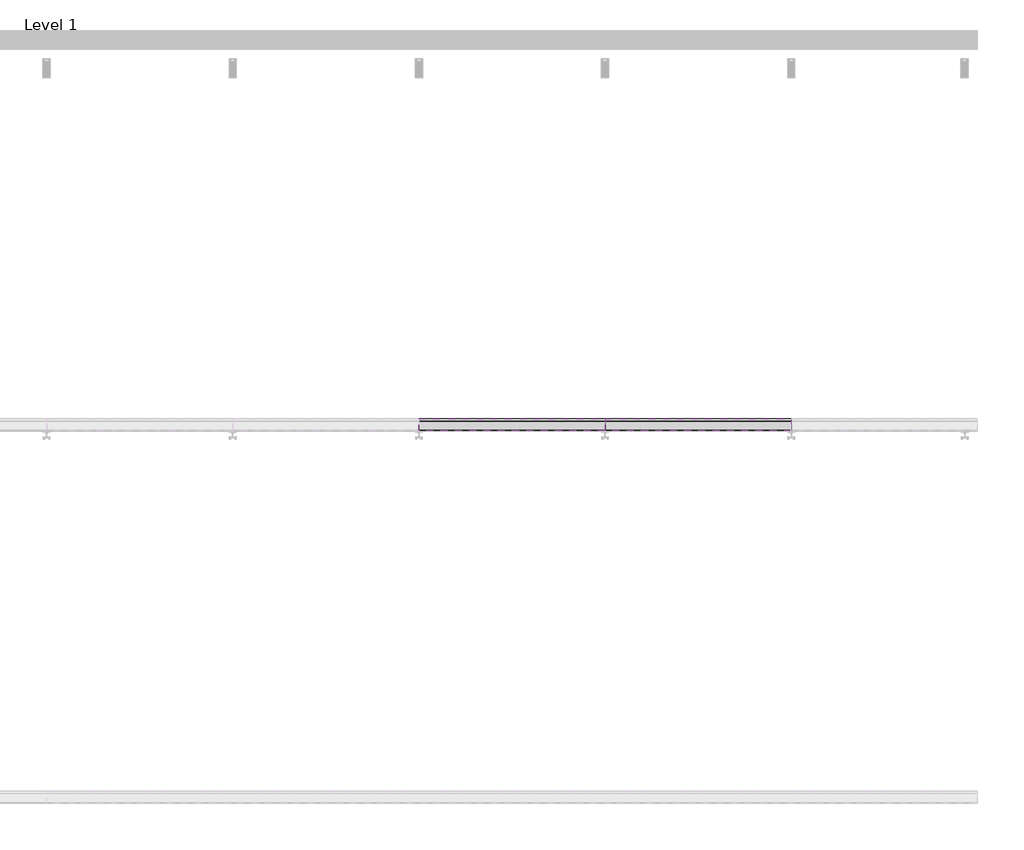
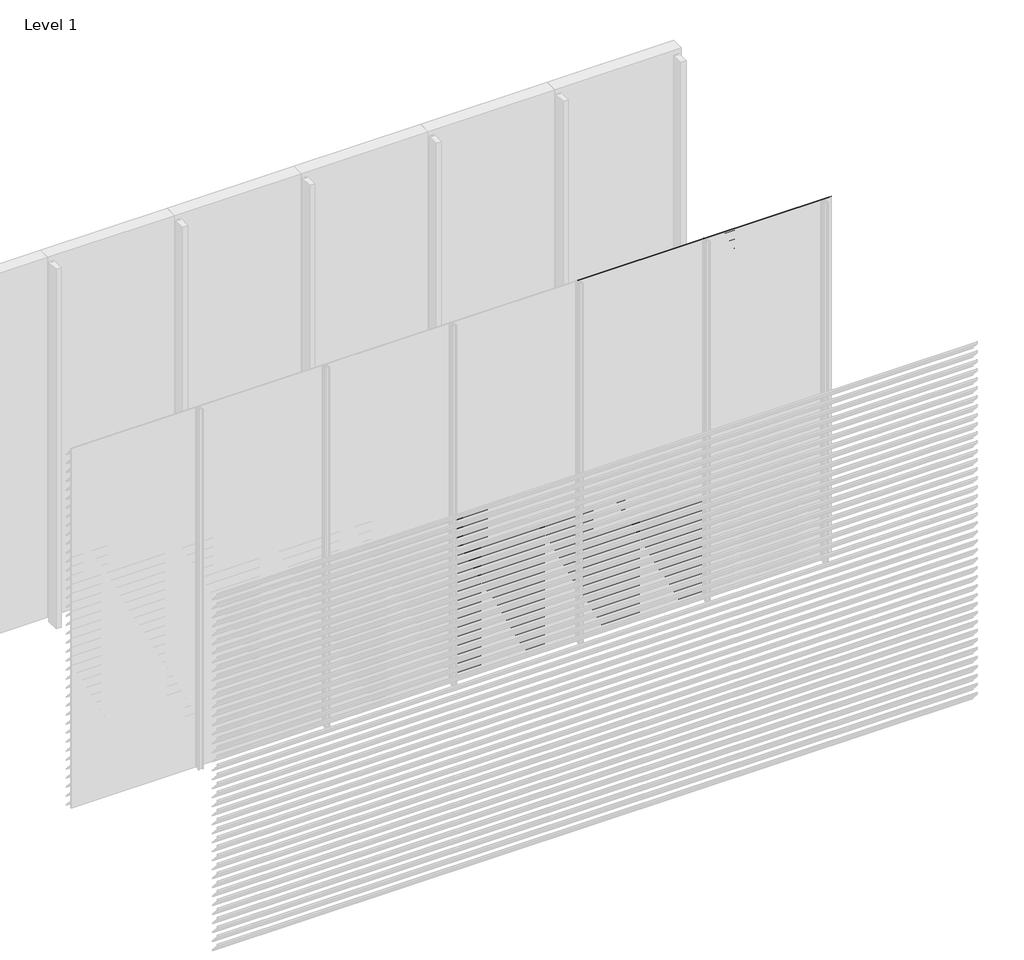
# One storey, part 12 of 35: 86 proxies.
"""IFC4 building model written with IfcOpenShell, lengths in millimetres."""

from ifc_helpers import new_model, si_unit, frame, origin, place, context, project, spatial, polyline, outline, extrude, element, save

model = new_model("IFC4")

# Units and contexts
model_context = context("Model", 3, world=origin())
ifc_project = project(units=[si_unit("LENGTHUNIT", "METRE", prefix="MILLI")], contexts=[model_context])

# Site, building, storey
site = spatial("IfcSite", under=ifc_project)
building = spatial("IfcBuilding", under=site)
storey = spatial("IfcBuildingStorey", under=building, Name="Level 1", Elevation=0.0)

# Proxies
placement = place(None, origin())
element("IfcBuildingElementProxy", 1, Name="Wall Sweeps", at=placement, inside=storey, context=model_context, shape_type="SweptSolid", body=[
    extrude(outline(polyline([(-41996.5, 2775.0), (-41996.5, 2760.5463701), (-41934.5, 2688.9330051), (-41934.5, 2685.4), (-41936.0, 2685.4), (-41936.0, 2688.3738975), (-41998.0, 2759.9872626), (-41998.0, 2775.0), (-41996.5, 2775.0)])), frame((3000.0, 0.0, 0.0), z_axis=(1.0, 0.0, 0.0), x_axis=(0.0, 1.0, 0.0)), (0.0, 0.0, 1.0), 1000.0),
])
element("IfcBuildingElementProxy", 2, Name="Wall Sweeps", at=placement, inside=storey, context=model_context, shape_type="SweptSolid", body=[
    extrude(outline(polyline([(-41996.5, 2700.0), (-41996.5, 2685.5463701), (-41934.5, 2613.9330051), (-41934.5, 2610.4), (-41936.0, 2610.4), (-41936.0, 2613.3738975), (-41998.0, 2684.9872626), (-41998.0, 2700.0), (-41996.5, 2700.0)])), frame((3000.0, 0.0, 0.0), z_axis=(1.0, 0.0, 0.0), x_axis=(0.0, 1.0, 0.0)), (0.0, 0.0, 1.0), 1000.0),
])
element("IfcBuildingElementProxy", 3, Name="Wall Sweeps", at=placement, inside=storey, context=model_context, shape_type="SweptSolid", body=[
    extrude(outline(polyline([(-41996.5, 2625.0), (-41996.5, 2610.5463701), (-41934.5, 2538.9330051), (-41934.5, 2535.4), (-41936.0, 2535.4), (-41936.0, 2538.3738975), (-41998.0, 2609.9872626), (-41998.0, 2625.0), (-41996.5, 2625.0)])), frame((3000.0, 0.0, 0.0), z_axis=(1.0, 0.0, 0.0), x_axis=(0.0, 1.0, 0.0)), (0.0, 0.0, 1.0), 1000.0),
])
element("IfcBuildingElementProxy", 4, Name="Wall Sweeps", at=placement, inside=storey, context=model_context, shape_type="SweptSolid", body=[
    extrude(outline(polyline([(-41996.5, 2550.0), (-41996.5, 2535.5463701), (-41934.5, 2463.9330051), (-41934.5, 2460.4), (-41936.0, 2460.4), (-41936.0, 2463.3738975), (-41998.0, 2534.9872626), (-41998.0, 2550.0), (-41996.5, 2550.0)])), frame((3000.0, 0.0, 0.0), z_axis=(1.0, 0.0, 0.0), x_axis=(0.0, 1.0, 0.0)), (0.0, 0.0, 1.0), 1000.0),
])
element("IfcBuildingElementProxy", 5, Name="Wall Sweeps", at=placement, inside=storey, context=model_context, shape_type="SweptSolid", body=[
    extrude(outline(polyline([(-41996.5, 2475.0), (-41996.5, 2460.5463701), (-41934.5, 2388.9330051), (-41934.5, 2385.4), (-41936.0, 2385.4), (-41936.0, 2388.3738975), (-41998.0, 2459.9872626), (-41998.0, 2475.0), (-41996.5, 2475.0)])), frame((3000.0, 0.0, 0.0), z_axis=(1.0, 0.0, 0.0), x_axis=(0.0, 1.0, 0.0)), (0.0, 0.0, 1.0), 1000.0),
])
element("IfcBuildingElementProxy", 6, Name="Wall Sweeps", at=placement, inside=storey, context=model_context, shape_type="SweptSolid", body=[
    extrude(outline(polyline([(-41996.5, 2400.0), (-41996.5, 2385.5463701), (-41934.5, 2313.9330051), (-41934.5, 2310.4), (-41936.0, 2310.4), (-41936.0, 2313.3738975), (-41998.0, 2384.9872626), (-41998.0, 2400.0), (-41996.5, 2400.0)])), frame((3000.0, 0.0, 0.0), z_axis=(1.0, 0.0, 0.0), x_axis=(0.0, 1.0, 0.0)), (0.0, 0.0, 1.0), 1000.0),
])
element("IfcBuildingElementProxy", 7, Name="Wall Sweeps", at=placement, inside=storey, context=model_context, shape_type="SweptSolid", body=[
    extrude(outline(polyline([(-41996.5, 2325.0), (-41996.5, 2310.5463701), (-41934.5, 2238.9330051), (-41934.5, 2235.4), (-41936.0, 2235.4), (-41936.0, 2238.3738975), (-41998.0, 2309.9872626), (-41998.0, 2325.0), (-41996.5, 2325.0)])), frame((3000.0, 0.0, 0.0), z_axis=(1.0, 0.0, 0.0), x_axis=(0.0, 1.0, 0.0)), (0.0, 0.0, 1.0), 1000.0),
])
element("IfcBuildingElementProxy", 8, Name="Wall Sweeps", at=placement, inside=storey, context=model_context, shape_type="SweptSolid", body=[
    extrude(outline(polyline([(-41996.5, 2250.0), (-41996.5, 2235.5463701), (-41934.5, 2163.9330051), (-41934.5, 2160.4), (-41936.0, 2160.4), (-41936.0, 2163.3738975), (-41998.0, 2234.9872626), (-41998.0, 2250.0), (-41996.5, 2250.0)])), frame((3000.0, 0.0, 0.0), z_axis=(1.0, 0.0, 0.0), x_axis=(0.0, 1.0, 0.0)), (0.0, 0.0, 1.0), 1000.0),
])
element("IfcBuildingElementProxy", 9, Name="Wall Sweeps", at=placement, inside=storey, context=model_context, shape_type="SweptSolid", body=[
    extrude(outline(polyline([(-41996.5, 2175.0), (-41996.5, 2160.5463701), (-41934.5, 2088.9330051), (-41934.5, 2085.4), (-41936.0, 2085.4), (-41936.0, 2088.3738975), (-41998.0, 2159.9872626), (-41998.0, 2175.0), (-41996.5, 2175.0)])), frame((3000.0, 0.0, 0.0), z_axis=(1.0, 0.0, 0.0), x_axis=(0.0, 1.0, 0.0)), (0.0, 0.0, 1.0), 1000.0),
])
element("IfcBuildingElementProxy", 10, Name="Wall Sweeps", at=placement, inside=storey, context=model_context, shape_type="SweptSolid", body=[
    extrude(outline(polyline([(-41996.5, 2100.0), (-41996.5, 2085.5463701), (-41934.5, 2013.9330051), (-41934.5, 2010.4), (-41936.0, 2010.4), (-41936.0, 2013.3738975), (-41998.0, 2084.9872626), (-41998.0, 2100.0), (-41996.5, 2100.0)])), frame((3000.0, 0.0, 0.0), z_axis=(1.0, 0.0, 0.0), x_axis=(0.0, 1.0, 0.0)), (0.0, 0.0, 1.0), 1000.0),
])
element("IfcBuildingElementProxy", 11, Name="Wall Sweeps", at=placement, inside=storey, context=model_context, shape_type="SweptSolid", body=[
    extrude(outline(polyline([(-41996.5, 2025.0), (-41996.5, 2010.5463701), (-41934.5, 1938.9330051), (-41934.5, 1935.4), (-41936.0, 1935.4), (-41936.0, 1938.3738975), (-41998.0, 2009.9872626), (-41998.0, 2025.0), (-41996.5, 2025.0)])), frame((3000.0, 0.0, 0.0), z_axis=(1.0, 0.0, 0.0), x_axis=(0.0, 1.0, 0.0)), (0.0, 0.0, 1.0), 1000.0),
])
element("IfcBuildingElementProxy", 12, Name="Wall Sweeps", at=placement, inside=storey, context=model_context, shape_type="SweptSolid", body=[
    extrude(outline(polyline([(-41996.5, 1950.0), (-41996.5, 1935.5463701), (-41934.5, 1863.9330051), (-41934.5, 1860.4), (-41936.0, 1860.4), (-41936.0, 1863.3738975), (-41998.0, 1934.9872626), (-41998.0, 1950.0), (-41996.5, 1950.0)])), frame((3000.0, 0.0, 0.0), z_axis=(1.0, 0.0, 0.0), x_axis=(0.0, 1.0, 0.0)), (0.0, 0.0, 1.0), 1000.0),
])
element("IfcBuildingElementProxy", 13, Name="Wall Sweeps", at=placement, inside=storey, context=model_context, shape_type="SweptSolid", body=[
    extrude(outline(polyline([(-41996.5, 1875.0), (-41996.5, 1860.5463701), (-41934.5, 1788.9330051), (-41934.5, 1785.4), (-41936.0, 1785.4), (-41936.0, 1788.3738975), (-41998.0, 1859.9872626), (-41998.0, 1875.0), (-41996.5, 1875.0)])), frame((3000.0, 0.0, 0.0), z_axis=(1.0, 0.0, 0.0), x_axis=(0.0, 1.0, 0.0)), (0.0, 0.0, 1.0), 1000.0),
])
element("IfcBuildingElementProxy", 14, Name="Wall Sweeps", at=placement, inside=storey, context=model_context, shape_type="SweptSolid", body=[
    extrude(outline(polyline([(-41996.5, 1800.0), (-41996.5, 1785.5463701), (-41934.5, 1713.9330051), (-41934.5, 1710.4), (-41936.0, 1710.4), (-41936.0, 1713.3738975), (-41998.0, 1784.9872626), (-41998.0, 1800.0), (-41996.5, 1800.0)])), frame((3000.0, 0.0, 0.0), z_axis=(1.0, 0.0, 0.0), x_axis=(0.0, 1.0, 0.0)), (0.0, 0.0, 1.0), 1000.0),
])
element("IfcBuildingElementProxy", 15, Name="Wall Sweeps", at=placement, inside=storey, context=model_context, shape_type="SweptSolid", body=[
    extrude(outline(polyline([(-41996.5, 1725.0), (-41996.5, 1710.5463701), (-41934.5, 1638.9330051), (-41934.5, 1635.4), (-41936.0, 1635.4), (-41936.0, 1638.3738975), (-41998.0, 1709.9872626), (-41998.0, 1725.0), (-41996.5, 1725.0)])), frame((3000.0, 0.0, 0.0), z_axis=(1.0, 0.0, 0.0), x_axis=(0.0, 1.0, 0.0)), (0.0, 0.0, 1.0), 1000.0),
])
element("IfcBuildingElementProxy", 16, Name="Wall Sweeps", at=placement, inside=storey, context=model_context, shape_type="SweptSolid", body=[
    extrude(outline(polyline([(-41996.5, 1650.0), (-41996.5, 1635.5463701), (-41934.5, 1563.9330051), (-41934.5, 1560.4), (-41936.0, 1560.4), (-41936.0, 1563.3738975), (-41998.0, 1634.9872626), (-41998.0, 1650.0), (-41996.5, 1650.0)])), frame((3000.0, 0.0, 0.0), z_axis=(1.0, 0.0, 0.0), x_axis=(0.0, 1.0, 0.0)), (0.0, 0.0, 1.0), 1000.0),
])
element("IfcBuildingElementProxy", 17, Name="Wall Sweeps", at=placement, inside=storey, context=model_context, shape_type="SweptSolid", body=[
    extrude(outline(polyline([(-41996.5, 1575.0), (-41996.5, 1560.5463701), (-41934.5, 1488.9330051), (-41934.5, 1485.4), (-41936.0, 1485.4), (-41936.0, 1488.3738975), (-41998.0, 1559.9872626), (-41998.0, 1575.0), (-41996.5, 1575.0)])), frame((3000.0, 0.0, 0.0), z_axis=(1.0, 0.0, 0.0), x_axis=(0.0, 1.0, 0.0)), (0.0, 0.0, 1.0), 1000.0),
])
element("IfcBuildingElementProxy", 18, Name="Wall Sweeps", at=placement, inside=storey, context=model_context, shape_type="SweptSolid", body=[
    extrude(outline(polyline([(-41996.5, 1500.0), (-41996.5, 1485.5463701), (-41934.5, 1413.9330051), (-41934.5, 1410.4), (-41936.0, 1410.4), (-41936.0, 1413.3738975), (-41998.0, 1484.9872626), (-41998.0, 1500.0), (-41996.5, 1500.0)])), frame((3000.0, 0.0, 0.0), z_axis=(1.0, 0.0, 0.0), x_axis=(0.0, 1.0, 0.0)), (0.0, 0.0, 1.0), 1000.0),
])
element("IfcBuildingElementProxy", 19, Name="Wall Sweeps", at=placement, inside=storey, context=model_context, shape_type="SweptSolid", body=[
    extrude(outline(polyline([(-41996.5, 1425.0), (-41996.5, 1410.5463701), (-41934.5, 1338.9330051), (-41934.5, 1335.4), (-41936.0, 1335.4), (-41936.0, 1338.3738975), (-41998.0, 1409.9872626), (-41998.0, 1425.0), (-41996.5, 1425.0)])), frame((3000.0, 0.0, 0.0), z_axis=(1.0, 0.0, 0.0), x_axis=(0.0, 1.0, 0.0)), (0.0, 0.0, 1.0), 1000.0),
])
element("IfcBuildingElementProxy", 20, Name="Wall Sweeps", at=placement, inside=storey, context=model_context, shape_type="SweptSolid", body=[
    extrude(outline(polyline([(-41996.5, 1350.0), (-41996.5, 1335.5463701), (-41934.5, 1263.9330051), (-41934.5, 1260.4), (-41936.0, 1260.4), (-41936.0, 1263.3738975), (-41998.0, 1334.9872626), (-41998.0, 1350.0), (-41996.5, 1350.0)])), frame((3000.0, 0.0, 0.0), z_axis=(1.0, 0.0, 0.0), x_axis=(0.0, 1.0, 0.0)), (0.0, 0.0, 1.0), 1000.0),
])
element("IfcBuildingElementProxy", 21, Name="Wall Sweeps", at=placement, inside=storey, context=model_context, shape_type="SweptSolid", body=[
    extrude(outline(polyline([(-41996.5, 1275.0), (-41996.5, 1260.5463701), (-41934.5, 1188.9330051), (-41934.5, 1185.4), (-41936.0, 1185.4), (-41936.0, 1188.3738975), (-41998.0, 1259.9872626), (-41998.0, 1275.0), (-41996.5, 1275.0)])), frame((3000.0, 0.0, 0.0), z_axis=(1.0, 0.0, 0.0), x_axis=(0.0, 1.0, 0.0)), (0.0, 0.0, 1.0), 1000.0),
])
element("IfcBuildingElementProxy", 22, Name="Wall Sweeps", at=placement, inside=storey, context=model_context, shape_type="SweptSolid", body=[
    extrude(outline(polyline([(-41996.5, 1200.0), (-41996.5, 1185.5463701), (-41934.5, 1113.9330051), (-41934.5, 1110.4), (-41936.0, 1110.4), (-41936.0, 1113.3738975), (-41998.0, 1184.9872626), (-41998.0, 1200.0), (-41996.5, 1200.0)])), frame((3000.0, 0.0, 0.0), z_axis=(1.0, 0.0, 0.0), x_axis=(0.0, 1.0, 0.0)), (0.0, 0.0, 1.0), 1000.0),
])
element("IfcBuildingElementProxy", 23, Name="Wall Sweeps", at=placement, inside=storey, context=model_context, shape_type="SweptSolid", body=[
    extrude(outline(polyline([(-41996.5, 1125.0), (-41996.5, 1110.5463701), (-41934.5, 1038.9330051), (-41934.5, 1035.4), (-41936.0, 1035.4), (-41936.0, 1038.3738975), (-41998.0, 1109.9872626), (-41998.0, 1125.0), (-41996.5, 1125.0)])), frame((3000.0, 0.0, 0.0), z_axis=(1.0, 0.0, 0.0), x_axis=(0.0, 1.0, 0.0)), (0.0, 0.0, 1.0), 1000.0),
])
element("IfcBuildingElementProxy", 24, Name="Wall Sweeps", at=placement, inside=storey, context=model_context, shape_type="SweptSolid", body=[
    extrude(outline(polyline([(-41996.5, 1050.0), (-41996.5, 1035.5463701), (-41934.5, 963.9330051), (-41934.5, 960.4), (-41936.0, 960.4), (-41936.0, 963.3738975), (-41998.0, 1034.9872626), (-41998.0, 1050.0), (-41996.5, 1050.0)])), frame((3000.0, 0.0, 0.0), z_axis=(1.0, 0.0, 0.0), x_axis=(0.0, 1.0, 0.0)), (0.0, 0.0, 1.0), 1000.0),
])
element("IfcBuildingElementProxy", 25, Name="Wall Sweeps", at=placement, inside=storey, context=model_context, shape_type="SweptSolid", body=[
    extrude(outline(polyline([(-41996.5, 975.0), (-41996.5, 960.5463701), (-41934.5, 888.9330051), (-41934.5, 885.4), (-41936.0, 885.4), (-41936.0, 888.3738975), (-41998.0, 959.9872626), (-41998.0, 975.0), (-41996.5, 975.0)])), frame((3000.0, 0.0, 0.0), z_axis=(1.0, 0.0, 0.0), x_axis=(0.0, 1.0, 0.0)), (0.0, 0.0, 1.0), 1000.0),
])
element("IfcBuildingElementProxy", 26, Name="Wall Sweeps", at=placement, inside=storey, context=model_context, shape_type="SweptSolid", body=[
    extrude(outline(polyline([(-41996.5, 900.0), (-41996.5, 885.5463701), (-41934.5, 813.9330051), (-41934.5, 810.4), (-41936.0, 810.4), (-41936.0, 813.3738975), (-41998.0, 884.9872626), (-41998.0, 900.0), (-41996.5, 900.0)])), frame((3000.0, 0.0, 0.0), z_axis=(1.0, 0.0, 0.0), x_axis=(0.0, 1.0, 0.0)), (0.0, 0.0, 1.0), 1000.0),
])
element("IfcBuildingElementProxy", 27, Name="Wall Sweeps", at=placement, inside=storey, context=model_context, shape_type="SweptSolid", body=[
    extrude(outline(polyline([(-41996.5, 825.0), (-41996.5, 810.5463701), (-41934.5, 738.9330051), (-41934.5, 735.4), (-41936.0, 735.4), (-41936.0, 738.3738975), (-41998.0, 809.9872626), (-41998.0, 825.0), (-41996.5, 825.0)])), frame((3000.0, 0.0, 0.0), z_axis=(1.0, 0.0, 0.0), x_axis=(0.0, 1.0, 0.0)), (0.0, 0.0, 1.0), 1000.0),
])
element("IfcBuildingElementProxy", 28, Name="Wall Sweeps", at=placement, inside=storey, context=model_context, shape_type="SweptSolid", body=[
    extrude(outline(polyline([(-41996.5, 750.0), (-41996.5, 735.5463701), (-41934.5, 663.9330051), (-41934.5, 660.4), (-41936.0, 660.4), (-41936.0, 663.3738975), (-41998.0, 734.9872626), (-41998.0, 750.0), (-41996.5, 750.0)])), frame((3000.0, 0.0, 0.0), z_axis=(1.0, 0.0, 0.0), x_axis=(0.0, 1.0, 0.0)), (0.0, 0.0, 1.0), 1000.0),
])
element("IfcBuildingElementProxy", 29, Name="Wall Sweeps", at=placement, inside=storey, context=model_context, shape_type="SweptSolid", body=[
    extrude(outline(polyline([(-41996.5, 675.0), (-41996.5, 660.5463701), (-41934.5, 588.9330051), (-41934.5, 585.4), (-41936.0, 585.4), (-41936.0, 588.3738975), (-41998.0, 659.9872626), (-41998.0, 675.0), (-41996.5, 675.0)])), frame((3000.0, 0.0, 0.0), z_axis=(1.0, 0.0, 0.0), x_axis=(0.0, 1.0, 0.0)), (0.0, 0.0, 1.0), 1000.0),
])
element("IfcBuildingElementProxy", 30, Name="Wall Sweeps", at=placement, inside=storey, context=model_context, shape_type="SweptSolid", body=[
    extrude(outline(polyline([(-41996.5, 600.0), (-41996.5, 585.5463701), (-41934.5, 513.9330051), (-41934.5, 510.4), (-41936.0, 510.4), (-41936.0, 513.3738975), (-41998.0, 584.9872626), (-41998.0, 600.0), (-41996.5, 600.0)])), frame((3000.0, 0.0, 0.0), z_axis=(1.0, 0.0, 0.0), x_axis=(0.0, 1.0, 0.0)), (0.0, 0.0, 1.0), 1000.0),
])
element("IfcBuildingElementProxy", 31, Name="Wall Sweeps", at=placement, inside=storey, context=model_context, shape_type="SweptSolid", body=[
    extrude(outline(polyline([(-41996.5, 525.0), (-41996.5, 510.5463701), (-41934.5, 438.9330051), (-41934.5, 435.4), (-41936.0, 435.4), (-41936.0, 438.3738975), (-41998.0, 509.9872626), (-41998.0, 525.0), (-41996.5, 525.0)])), frame((3000.0, 0.0, 0.0), z_axis=(1.0, 0.0, 0.0), x_axis=(0.0, 1.0, 0.0)), (0.0, 0.0, 1.0), 1000.0),
])
element("IfcBuildingElementProxy", 32, Name="Wall Sweeps", at=placement, inside=storey, context=model_context, shape_type="SweptSolid", body=[
    extrude(outline(polyline([(-41996.5, 450.0), (-41996.5, 435.5463701), (-41934.5, 363.9330051), (-41934.5, 360.4), (-41936.0, 360.4), (-41936.0, 363.3738975), (-41998.0, 434.9872626), (-41998.0, 450.0), (-41996.5, 450.0)])), frame((3000.0, 0.0, 0.0), z_axis=(1.0, 0.0, 0.0), x_axis=(0.0, 1.0, 0.0)), (0.0, 0.0, 1.0), 1000.0),
])
element("IfcBuildingElementProxy", 33, Name="Wall Sweeps", at=placement, inside=storey, context=model_context, shape_type="SweptSolid", body=[
    extrude(outline(polyline([(-41996.5, 375.0), (-41996.5, 360.5463701), (-41934.5, 288.9330051), (-41934.5, 285.4), (-41936.0, 285.4), (-41936.0, 288.3738975), (-41998.0, 359.9872626), (-41998.0, 375.0), (-41996.5, 375.0)])), frame((3000.0, 0.0, 0.0), z_axis=(1.0, 0.0, 0.0), x_axis=(0.0, 1.0, 0.0)), (0.0, 0.0, 1.0), 1000.0),
])
element("IfcBuildingElementProxy", 34, Name="Wall Sweeps", at=placement, inside=storey, context=model_context, shape_type="SweptSolid", body=[
    extrude(outline(polyline([(-41996.5, 300.0), (-41996.5, 285.5463701), (-41934.5, 213.9330051), (-41934.5, 210.4), (-41936.0, 210.4), (-41936.0, 213.3738975), (-41998.0, 284.9872626), (-41998.0, 300.0), (-41996.5, 300.0)])), frame((3000.0, 0.0, 0.0), z_axis=(1.0, 0.0, 0.0), x_axis=(0.0, 1.0, 0.0)), (0.0, 0.0, 1.0), 1000.0),
])
element("IfcBuildingElementProxy", 35, Name="Wall Sweeps", at=placement, inside=storey, context=model_context, shape_type="SweptSolid", body=[
    extrude(outline(polyline([(-41996.5, 225.0), (-41996.5, 210.5463701), (-41934.5, 138.9330051), (-41934.5, 135.4), (-41936.0, 135.4), (-41936.0, 138.3738975), (-41998.0, 209.9872626), (-41998.0, 225.0), (-41996.5, 225.0)])), frame((3000.0, 0.0, 0.0), z_axis=(1.0, 0.0, 0.0), x_axis=(0.0, 1.0, 0.0)), (0.0, 0.0, 1.0), 1000.0),
])
element("IfcBuildingElementProxy", 36, Name="Wall Sweeps", at=placement, inside=storey, context=model_context, shape_type="SweptSolid", body=[
    extrude(outline(polyline([(-41996.5, 150.0), (-41996.5, 135.5463701), (-41934.5, 63.9330051), (-41934.5, 60.4), (-41936.0, 60.4), (-41936.0, 63.3738975), (-41998.0, 134.9872626), (-41998.0, 150.0), (-41996.5, 150.0)])), frame((3000.0, 0.0, 0.0), z_axis=(1.0, 0.0, 0.0), x_axis=(0.0, 1.0, 0.0)), (0.0, 0.0, 1.0), 1000.0),
])
element("IfcBuildingElementProxy", 37, Name="Wall Sweeps", at=placement, inside=storey, context=model_context, shape_type="SweptSolid", body=[
    extrude(outline(polyline([(-41996.5, 75.0), (-41996.5, 60.5463701), (-41934.5, -11.0669949), (-41934.5, -14.6), (-41936.0, -14.6), (-41936.0, -11.6261025), (-41998.0, 59.9872626), (-41998.0, 75.0), (-41996.5, 75.0)])), frame((3000.0, 0.0, 0.0), z_axis=(1.0, 0.0, 0.0), x_axis=(0.0, 1.0, 0.0)), (0.0, 0.0, 1.0), 1000.0),
])
element("IfcBuildingElementProxy", 38, Name="Wall Sweeps", at=placement, inside=storey, context=model_context, shape_type="SweptSolid", body=[
    extrude(outline(polyline([(-41996.5, 3000.0), (-41996.5, 2985.5463701), (-41934.5, 2913.9330051), (-41934.5, 2910.4), (-41936.0, 2910.4), (-41936.0, 2913.3738975), (-41998.0, 2984.9872626), (-41998.0, 3000.0), (-41996.5, 3000.0)])), frame((4000.0, 0.0, 0.0), z_axis=(1.0, 0.0, 0.0), x_axis=(0.0, 1.0, 0.0)), (0.0, 0.0, 1.0), 1000.0),
])
element("IfcBuildingElementProxy", 39, Name="Wall Sweeps", at=placement, inside=storey, context=model_context, shape_type="SweptSolid", body=[
    extrude(outline(polyline([(-41996.5, 2925.0), (-41996.5, 2910.5463701), (-41934.5, 2838.9330051), (-41934.5, 2835.4), (-41936.0, 2835.4), (-41936.0, 2838.3738975), (-41998.0, 2909.9872626), (-41998.0, 2925.0), (-41996.5, 2925.0)])), frame((4000.0, 0.0, 0.0), z_axis=(1.0, 0.0, 0.0), x_axis=(0.0, 1.0, 0.0)), (0.0, 0.0, 1.0), 1000.0),
])
element("IfcBuildingElementProxy", 40, Name="Wall Sweeps", at=placement, inside=storey, context=model_context, shape_type="SweptSolid", body=[
    extrude(outline(polyline([(-41996.5, 2850.0), (-41996.5, 2835.5463701), (-41934.5, 2763.9330051), (-41934.5, 2760.4), (-41936.0, 2760.4), (-41936.0, 2763.3738975), (-41998.0, 2834.9872626), (-41998.0, 2850.0), (-41996.5, 2850.0)])), frame((4000.0, 0.0, 0.0), z_axis=(1.0, 0.0, 0.0), x_axis=(0.0, 1.0, 0.0)), (0.0, 0.0, 1.0), 1000.0),
])
element("IfcBuildingElementProxy", 41, Name="Wall Sweeps", at=placement, inside=storey, context=model_context, shape_type="SweptSolid", body=[
    extrude(outline(polyline([(-41996.5, 2775.0), (-41996.5, 2760.5463701), (-41934.5, 2688.9330051), (-41934.5, 2685.4), (-41936.0, 2685.4), (-41936.0, 2688.3738975), (-41998.0, 2759.9872626), (-41998.0, 2775.0), (-41996.5, 2775.0)])), frame((4000.0, 0.0, 0.0), z_axis=(1.0, 0.0, 0.0), x_axis=(0.0, 1.0, 0.0)), (0.0, 0.0, 1.0), 1000.0),
])
element("IfcBuildingElementProxy", 42, Name="Wall Sweeps", at=placement, inside=storey, context=model_context, shape_type="SweptSolid", body=[
    extrude(outline(polyline([(-41996.5, 2700.0), (-41996.5, 2685.5463701), (-41934.5, 2613.9330051), (-41934.5, 2610.4), (-41936.0, 2610.4), (-41936.0, 2613.3738975), (-41998.0, 2684.9872626), (-41998.0, 2700.0), (-41996.5, 2700.0)])), frame((4000.0, 0.0, 0.0), z_axis=(1.0, 0.0, 0.0), x_axis=(0.0, 1.0, 0.0)), (0.0, 0.0, 1.0), 1000.0),
])
element("IfcBuildingElementProxy", 43, Name="Wall Sweeps", at=placement, inside=storey, context=model_context, shape_type="SweptSolid", body=[
    extrude(outline(polyline([(-41996.5, 2625.0), (-41996.5, 2610.5463701), (-41934.5, 2538.9330051), (-41934.5, 2535.4), (-41936.0, 2535.4), (-41936.0, 2538.3738975), (-41998.0, 2609.9872626), (-41998.0, 2625.0), (-41996.5, 2625.0)])), frame((4000.0, 0.0, 0.0), z_axis=(1.0, 0.0, 0.0), x_axis=(0.0, 1.0, 0.0)), (0.0, 0.0, 1.0), 1000.0),
])
element("IfcBuildingElementProxy", 44, Name="Wall Sweeps", at=placement, inside=storey, context=model_context, shape_type="SweptSolid", body=[
    extrude(outline(polyline([(-41996.5, 2550.0), (-41996.5, 2535.5463701), (-41934.5, 2463.9330051), (-41934.5, 2460.4), (-41936.0, 2460.4), (-41936.0, 2463.3738975), (-41998.0, 2534.9872626), (-41998.0, 2550.0), (-41996.5, 2550.0)])), frame((4000.0, 0.0, 0.0), z_axis=(1.0, 0.0, 0.0), x_axis=(0.0, 1.0, 0.0)), (0.0, 0.0, 1.0), 1000.0),
])
element("IfcBuildingElementProxy", 45, Name="Wall Sweeps", at=placement, inside=storey, context=model_context, shape_type="SweptSolid", body=[
    extrude(outline(polyline([(-41996.5, 2475.0), (-41996.5, 2460.5463701), (-41934.5, 2388.9330051), (-41934.5, 2385.4), (-41936.0, 2385.4), (-41936.0, 2388.3738975), (-41998.0, 2459.9872626), (-41998.0, 2475.0), (-41996.5, 2475.0)])), frame((4000.0, 0.0, 0.0), z_axis=(1.0, 0.0, 0.0), x_axis=(0.0, 1.0, 0.0)), (0.0, 0.0, 1.0), 1000.0),
])
element("IfcBuildingElementProxy", 46, Name="Wall Sweeps", at=placement, inside=storey, context=model_context, shape_type="SweptSolid", body=[
    extrude(outline(polyline([(-41996.5, 2400.0), (-41996.5, 2385.5463701), (-41934.5, 2313.9330051), (-41934.5, 2310.4), (-41936.0, 2310.4), (-41936.0, 2313.3738975), (-41998.0, 2384.9872626), (-41998.0, 2400.0), (-41996.5, 2400.0)])), frame((4000.0, 0.0, 0.0), z_axis=(1.0, 0.0, 0.0), x_axis=(0.0, 1.0, 0.0)), (0.0, 0.0, 1.0), 1000.0),
])
element("IfcBuildingElementProxy", 47, Name="Wall Sweeps", at=placement, inside=storey, context=model_context, shape_type="SweptSolid", body=[
    extrude(outline(polyline([(-41996.5, 2325.0), (-41996.5, 2310.5463701), (-41934.5, 2238.9330051), (-41934.5, 2235.4), (-41936.0, 2235.4), (-41936.0, 2238.3738975), (-41998.0, 2309.9872626), (-41998.0, 2325.0), (-41996.5, 2325.0)])), frame((4000.0, 0.0, 0.0), z_axis=(1.0, 0.0, 0.0), x_axis=(0.0, 1.0, 0.0)), (0.0, 0.0, 1.0), 1000.0),
])
element("IfcBuildingElementProxy", 48, Name="Wall Sweeps", at=placement, inside=storey, context=model_context, shape_type="SweptSolid", body=[
    extrude(outline(polyline([(-41996.5, 2250.0), (-41996.5, 2235.5463701), (-41934.5, 2163.9330051), (-41934.5, 2160.4), (-41936.0, 2160.4), (-41936.0, 2163.3738975), (-41998.0, 2234.9872626), (-41998.0, 2250.0), (-41996.5, 2250.0)])), frame((4000.0, 0.0, 0.0), z_axis=(1.0, 0.0, 0.0), x_axis=(0.0, 1.0, 0.0)), (0.0, 0.0, 1.0), 1000.0),
])
element("IfcBuildingElementProxy", 49, Name="Wall Sweeps", at=placement, inside=storey, context=model_context, shape_type="SweptSolid", body=[
    extrude(outline(polyline([(-41996.5, 2175.0), (-41996.5, 2160.5463701), (-41934.5, 2088.9330051), (-41934.5, 2085.4), (-41936.0, 2085.4), (-41936.0, 2088.3738975), (-41998.0, 2159.9872626), (-41998.0, 2175.0), (-41996.5, 2175.0)])), frame((4000.0, 0.0, 0.0), z_axis=(1.0, 0.0, 0.0), x_axis=(0.0, 1.0, 0.0)), (0.0, 0.0, 1.0), 1000.0),
])
element("IfcBuildingElementProxy", 50, Name="Wall Sweeps", at=placement, inside=storey, context=model_context, shape_type="SweptSolid", body=[
    extrude(outline(polyline([(-41996.5, 2100.0), (-41996.5, 2085.5463701), (-41934.5, 2013.9330051), (-41934.5, 2010.4), (-41936.0, 2010.4), (-41936.0, 2013.3738975), (-41998.0, 2084.9872626), (-41998.0, 2100.0), (-41996.5, 2100.0)])), frame((4000.0, 0.0, 0.0), z_axis=(1.0, 0.0, 0.0), x_axis=(0.0, 1.0, 0.0)), (0.0, 0.0, 1.0), 1000.0),
])
element("IfcBuildingElementProxy", 51, Name="Wall Sweeps", at=placement, inside=storey, context=model_context, shape_type="SweptSolid", body=[
    extrude(outline(polyline([(-41996.5, 2025.0), (-41996.5, 2010.5463701), (-41934.5, 1938.9330051), (-41934.5, 1935.4), (-41936.0, 1935.4), (-41936.0, 1938.3738975), (-41998.0, 2009.9872626), (-41998.0, 2025.0), (-41996.5, 2025.0)])), frame((4000.0, 0.0, 0.0), z_axis=(1.0, 0.0, 0.0), x_axis=(0.0, 1.0, 0.0)), (0.0, 0.0, 1.0), 1000.0),
])
element("IfcBuildingElementProxy", 52, Name="Wall Sweeps", at=placement, inside=storey, context=model_context, shape_type="SweptSolid", body=[
    extrude(outline(polyline([(-41996.5, 1950.0), (-41996.5, 1935.5463701), (-41934.5, 1863.9330051), (-41934.5, 1860.4), (-41936.0, 1860.4), (-41936.0, 1863.3738975), (-41998.0, 1934.9872626), (-41998.0, 1950.0), (-41996.5, 1950.0)])), frame((4000.0, 0.0, 0.0), z_axis=(1.0, 0.0, 0.0), x_axis=(0.0, 1.0, 0.0)), (0.0, 0.0, 1.0), 1000.0),
])
element("IfcBuildingElementProxy", 53, Name="Wall Sweeps", at=placement, inside=storey, context=model_context, shape_type="SweptSolid", body=[
    extrude(outline(polyline([(-41996.5, 1875.0), (-41996.5, 1860.5463701), (-41934.5, 1788.9330051), (-41934.5, 1785.4), (-41936.0, 1785.4), (-41936.0, 1788.3738975), (-41998.0, 1859.9872626), (-41998.0, 1875.0), (-41996.5, 1875.0)])), frame((4000.0, 0.0, 0.0), z_axis=(1.0, 0.0, 0.0), x_axis=(0.0, 1.0, 0.0)), (0.0, 0.0, 1.0), 1000.0),
])
element("IfcBuildingElementProxy", 54, Name="Wall Sweeps", at=placement, inside=storey, context=model_context, shape_type="SweptSolid", body=[
    extrude(outline(polyline([(-41996.5, 1800.0), (-41996.5, 1785.5463701), (-41934.5, 1713.9330051), (-41934.5, 1710.4), (-41936.0, 1710.4), (-41936.0, 1713.3738975), (-41998.0, 1784.9872626), (-41998.0, 1800.0), (-41996.5, 1800.0)])), frame((4000.0, 0.0, 0.0), z_axis=(1.0, 0.0, 0.0), x_axis=(0.0, 1.0, 0.0)), (0.0, 0.0, 1.0), 1000.0),
])
element("IfcBuildingElementProxy", 55, Name="Wall Sweeps", at=placement, inside=storey, context=model_context, shape_type="SweptSolid", body=[
    extrude(outline(polyline([(-41996.5, 1725.0), (-41996.5, 1710.5463701), (-41934.5, 1638.9330051), (-41934.5, 1635.4), (-41936.0, 1635.4), (-41936.0, 1638.3738975), (-41998.0, 1709.9872626), (-41998.0, 1725.0), (-41996.5, 1725.0)])), frame((4000.0, 0.0, 0.0), z_axis=(1.0, 0.0, 0.0), x_axis=(0.0, 1.0, 0.0)), (0.0, 0.0, 1.0), 1000.0),
])
element("IfcBuildingElementProxy", 56, Name="Wall Sweeps", at=placement, inside=storey, context=model_context, shape_type="SweptSolid", body=[
    extrude(outline(polyline([(-41996.5, 1650.0), (-41996.5, 1635.5463701), (-41934.5, 1563.9330051), (-41934.5, 1560.4), (-41936.0, 1560.4), (-41936.0, 1563.3738975), (-41998.0, 1634.9872626), (-41998.0, 1650.0), (-41996.5, 1650.0)])), frame((4000.0, 0.0, 0.0), z_axis=(1.0, 0.0, 0.0), x_axis=(0.0, 1.0, 0.0)), (0.0, 0.0, 1.0), 1000.0),
])
element("IfcBuildingElementProxy", 57, Name="Wall Sweeps", at=placement, inside=storey, context=model_context, shape_type="SweptSolid", body=[
    extrude(outline(polyline([(-41996.5, 1575.0), (-41996.5, 1560.5463701), (-41934.5, 1488.9330051), (-41934.5, 1485.4), (-41936.0, 1485.4), (-41936.0, 1488.3738975), (-41998.0, 1559.9872626), (-41998.0, 1575.0), (-41996.5, 1575.0)])), frame((4000.0, 0.0, 0.0), z_axis=(1.0, 0.0, 0.0), x_axis=(0.0, 1.0, 0.0)), (0.0, 0.0, 1.0), 1000.0),
])
element("IfcBuildingElementProxy", 58, Name="Wall Sweeps", at=placement, inside=storey, context=model_context, shape_type="SweptSolid", body=[
    extrude(outline(polyline([(-41996.5, 1500.0), (-41996.5, 1485.5463701), (-41934.5, 1413.9330051), (-41934.5, 1410.4), (-41936.0, 1410.4), (-41936.0, 1413.3738975), (-41998.0, 1484.9872626), (-41998.0, 1500.0), (-41996.5, 1500.0)])), frame((4000.0, 0.0, 0.0), z_axis=(1.0, 0.0, 0.0), x_axis=(0.0, 1.0, 0.0)), (0.0, 0.0, 1.0), 1000.0),
])
element("IfcBuildingElementProxy", 59, Name="Wall Sweeps", at=placement, inside=storey, context=model_context, shape_type="SweptSolid", body=[
    extrude(outline(polyline([(-41996.5, 1425.0), (-41996.5, 1410.5463701), (-41934.5, 1338.9330051), (-41934.5, 1335.4), (-41936.0, 1335.4), (-41936.0, 1338.3738975), (-41998.0, 1409.9872626), (-41998.0, 1425.0), (-41996.5, 1425.0)])), frame((4000.0, 0.0, 0.0), z_axis=(1.0, 0.0, 0.0), x_axis=(0.0, 1.0, 0.0)), (0.0, 0.0, 1.0), 1000.0),
])
element("IfcBuildingElementProxy", 60, Name="Wall Sweeps", at=placement, inside=storey, context=model_context, shape_type="SweptSolid", body=[
    extrude(outline(polyline([(-41996.5, 1350.0), (-41996.5, 1335.5463701), (-41934.5, 1263.9330051), (-41934.5, 1260.4), (-41936.0, 1260.4), (-41936.0, 1263.3738975), (-41998.0, 1334.9872626), (-41998.0, 1350.0), (-41996.5, 1350.0)])), frame((4000.0, 0.0, 0.0), z_axis=(1.0, 0.0, 0.0), x_axis=(0.0, 1.0, 0.0)), (0.0, 0.0, 1.0), 1000.0),
])
element("IfcBuildingElementProxy", 61, Name="Wall Sweeps", at=placement, inside=storey, context=model_context, shape_type="SweptSolid", body=[
    extrude(outline(polyline([(-41996.5, 1275.0), (-41996.5, 1260.5463701), (-41934.5, 1188.9330051), (-41934.5, 1185.4), (-41936.0, 1185.4), (-41936.0, 1188.3738975), (-41998.0, 1259.9872626), (-41998.0, 1275.0), (-41996.5, 1275.0)])), frame((4000.0, 0.0, 0.0), z_axis=(1.0, 0.0, 0.0), x_axis=(0.0, 1.0, 0.0)), (0.0, 0.0, 1.0), 1000.0),
])
element("IfcBuildingElementProxy", 62, Name="Wall Sweeps", at=placement, inside=storey, context=model_context, shape_type="SweptSolid", body=[
    extrude(outline(polyline([(-41996.5, 1200.0), (-41996.5, 1185.5463701), (-41934.5, 1113.9330051), (-41934.5, 1110.4), (-41936.0, 1110.4), (-41936.0, 1113.3738975), (-41998.0, 1184.9872626), (-41998.0, 1200.0), (-41996.5, 1200.0)])), frame((4000.0, 0.0, 0.0), z_axis=(1.0, 0.0, 0.0), x_axis=(0.0, 1.0, 0.0)), (0.0, 0.0, 1.0), 1000.0),
])
element("IfcBuildingElementProxy", 63, Name="Wall Sweeps", at=placement, inside=storey, context=model_context, shape_type="SweptSolid", body=[
    extrude(outline(polyline([(-41996.5, 1125.0), (-41996.5, 1110.5463701), (-41934.5, 1038.9330051), (-41934.5, 1035.4), (-41936.0, 1035.4), (-41936.0, 1038.3738975), (-41998.0, 1109.9872626), (-41998.0, 1125.0), (-41996.5, 1125.0)])), frame((4000.0, 0.0, 0.0), z_axis=(1.0, 0.0, 0.0), x_axis=(0.0, 1.0, 0.0)), (0.0, 0.0, 1.0), 1000.0),
])
element("IfcBuildingElementProxy", 64, Name="Wall Sweeps", at=placement, inside=storey, context=model_context, shape_type="SweptSolid", body=[
    extrude(outline(polyline([(-41996.5, 1050.0), (-41996.5, 1035.5463701), (-41934.5, 963.9330051), (-41934.5, 960.4), (-41936.0, 960.4), (-41936.0, 963.3738975), (-41998.0, 1034.9872626), (-41998.0, 1050.0), (-41996.5, 1050.0)])), frame((4000.0, 0.0, 0.0), z_axis=(1.0, 0.0, 0.0), x_axis=(0.0, 1.0, 0.0)), (0.0, 0.0, 1.0), 1000.0),
])
element("IfcBuildingElementProxy", 65, Name="Wall Sweeps", at=placement, inside=storey, context=model_context, shape_type="SweptSolid", body=[
    extrude(outline(polyline([(-41996.5, 975.0), (-41996.5, 960.5463701), (-41934.5, 888.9330051), (-41934.5, 885.4), (-41936.0, 885.4), (-41936.0, 888.3738975), (-41998.0, 959.9872626), (-41998.0, 975.0), (-41996.5, 975.0)])), frame((4000.0, 0.0, 0.0), z_axis=(1.0, 0.0, 0.0), x_axis=(0.0, 1.0, 0.0)), (0.0, 0.0, 1.0), 1000.0),
])
element("IfcBuildingElementProxy", 66, Name="Wall Sweeps", at=placement, inside=storey, context=model_context, shape_type="SweptSolid", body=[
    extrude(outline(polyline([(-41996.5, 900.0), (-41996.5, 885.5463701), (-41934.5, 813.9330051), (-41934.5, 810.4), (-41936.0, 810.4), (-41936.0, 813.3738975), (-41998.0, 884.9872626), (-41998.0, 900.0), (-41996.5, 900.0)])), frame((4000.0, 0.0, 0.0), z_axis=(1.0, 0.0, 0.0), x_axis=(0.0, 1.0, 0.0)), (0.0, 0.0, 1.0), 1000.0),
])
element("IfcBuildingElementProxy", 67, Name="Wall Sweeps", at=placement, inside=storey, context=model_context, shape_type="SweptSolid", body=[
    extrude(outline(polyline([(-41996.5, 825.0), (-41996.5, 810.5463701), (-41934.5, 738.9330051), (-41934.5, 735.4), (-41936.0, 735.4), (-41936.0, 738.3738975), (-41998.0, 809.9872626), (-41998.0, 825.0), (-41996.5, 825.0)])), frame((4000.0, 0.0, 0.0), z_axis=(1.0, 0.0, 0.0), x_axis=(0.0, 1.0, 0.0)), (0.0, 0.0, 1.0), 1000.0),
])
element("IfcBuildingElementProxy", 68, Name="Wall Sweeps", at=placement, inside=storey, context=model_context, shape_type="SweptSolid", body=[
    extrude(outline(polyline([(-41996.5, 750.0), (-41996.5, 735.5463701), (-41934.5, 663.9330051), (-41934.5, 660.4), (-41936.0, 660.4), (-41936.0, 663.3738975), (-41998.0, 734.9872626), (-41998.0, 750.0), (-41996.5, 750.0)])), frame((4000.0, 0.0, 0.0), z_axis=(1.0, 0.0, 0.0), x_axis=(0.0, 1.0, 0.0)), (0.0, 0.0, 1.0), 1000.0),
])
element("IfcBuildingElementProxy", 69, Name="Wall Sweeps", at=placement, inside=storey, context=model_context, shape_type="SweptSolid", body=[
    extrude(outline(polyline([(-41996.5, 675.0), (-41996.5, 660.5463701), (-41934.5, 588.9330051), (-41934.5, 585.4), (-41936.0, 585.4), (-41936.0, 588.3738975), (-41998.0, 659.9872626), (-41998.0, 675.0), (-41996.5, 675.0)])), frame((4000.0, 0.0, 0.0), z_axis=(1.0, 0.0, 0.0), x_axis=(0.0, 1.0, 0.0)), (0.0, 0.0, 1.0), 1000.0),
])
element("IfcBuildingElementProxy", 70, Name="Wall Sweeps", at=placement, inside=storey, context=model_context, shape_type="SweptSolid", body=[
    extrude(outline(polyline([(-41996.5, 600.0), (-41996.5, 585.5463701), (-41934.5, 513.9330051), (-41934.5, 510.4), (-41936.0, 510.4), (-41936.0, 513.3738975), (-41998.0, 584.9872626), (-41998.0, 600.0), (-41996.5, 600.0)])), frame((4000.0, 0.0, 0.0), z_axis=(1.0, 0.0, 0.0), x_axis=(0.0, 1.0, 0.0)), (0.0, 0.0, 1.0), 1000.0),
])
element("IfcBuildingElementProxy", 71, Name="Wall Sweeps", at=placement, inside=storey, context=model_context, shape_type="SweptSolid", body=[
    extrude(outline(polyline([(-41996.5, 525.0), (-41996.5, 510.5463701), (-41934.5, 438.9330051), (-41934.5, 435.4), (-41936.0, 435.4), (-41936.0, 438.3738975), (-41998.0, 509.9872626), (-41998.0, 525.0), (-41996.5, 525.0)])), frame((4000.0, 0.0, 0.0), z_axis=(1.0, 0.0, 0.0), x_axis=(0.0, 1.0, 0.0)), (0.0, 0.0, 1.0), 1000.0),
])
element("IfcBuildingElementProxy", 72, Name="Wall Sweeps", at=placement, inside=storey, context=model_context, shape_type="SweptSolid", body=[
    extrude(outline(polyline([(-41996.5, 450.0), (-41996.5, 435.5463701), (-41934.5, 363.9330051), (-41934.5, 360.4), (-41936.0, 360.4), (-41936.0, 363.3738975), (-41998.0, 434.9872626), (-41998.0, 450.0), (-41996.5, 450.0)])), frame((4000.0, 0.0, 0.0), z_axis=(1.0, 0.0, 0.0), x_axis=(0.0, 1.0, 0.0)), (0.0, 0.0, 1.0), 1000.0),
])
element("IfcBuildingElementProxy", 73, Name="Wall Sweeps", at=placement, inside=storey, context=model_context, shape_type="SweptSolid", body=[
    extrude(outline(polyline([(-41996.5, 375.0), (-41996.5, 360.5463701), (-41934.5, 288.9330051), (-41934.5, 285.4), (-41936.0, 285.4), (-41936.0, 288.3738975), (-41998.0, 359.9872626), (-41998.0, 375.0), (-41996.5, 375.0)])), frame((4000.0, 0.0, 0.0), z_axis=(1.0, 0.0, 0.0), x_axis=(0.0, 1.0, 0.0)), (0.0, 0.0, 1.0), 1000.0),
])
element("IfcBuildingElementProxy", 74, Name="Wall Sweeps", at=placement, inside=storey, context=model_context, shape_type="SweptSolid", body=[
    extrude(outline(polyline([(-41996.5, 300.0), (-41996.5, 285.5463701), (-41934.5, 213.9330051), (-41934.5, 210.4), (-41936.0, 210.4), (-41936.0, 213.3738975), (-41998.0, 284.9872626), (-41998.0, 300.0), (-41996.5, 300.0)])), frame((4000.0, 0.0, 0.0), z_axis=(1.0, 0.0, 0.0), x_axis=(0.0, 1.0, 0.0)), (0.0, 0.0, 1.0), 1000.0),
])
element("IfcBuildingElementProxy", 75, Name="Wall Sweeps", at=placement, inside=storey, context=model_context, shape_type="SweptSolid", body=[
    extrude(outline(polyline([(-41996.5, 225.0), (-41996.5, 210.5463701), (-41934.5, 138.9330051), (-41934.5, 135.4), (-41936.0, 135.4), (-41936.0, 138.3738975), (-41998.0, 209.9872626), (-41998.0, 225.0), (-41996.5, 225.0)])), frame((4000.0, 0.0, 0.0), z_axis=(1.0, 0.0, 0.0), x_axis=(0.0, 1.0, 0.0)), (0.0, 0.0, 1.0), 1000.0),
])
element("IfcBuildingElementProxy", 76, Name="Wall Sweeps", at=placement, inside=storey, context=model_context, shape_type="SweptSolid", body=[
    extrude(outline(polyline([(-41996.5, 150.0), (-41996.5, 135.5463701), (-41934.5, 63.9330051), (-41934.5, 60.4), (-41936.0, 60.4), (-41936.0, 63.3738975), (-41998.0, 134.9872626), (-41998.0, 150.0), (-41996.5, 150.0)])), frame((4000.0, 0.0, 0.0), z_axis=(1.0, 0.0, 0.0), x_axis=(0.0, 1.0, 0.0)), (0.0, 0.0, 1.0), 1000.0),
])
element("IfcBuildingElementProxy", 77, Name="Wall Sweeps", at=placement, inside=storey, context=model_context, shape_type="SweptSolid", body=[
    extrude(outline(polyline([(-41996.5, 75.0), (-41996.5, 60.5463701), (-41934.5, -11.0669949), (-41934.5, -14.6), (-41936.0, -14.6), (-41936.0, -11.6261025), (-41998.0, 59.9872626), (-41998.0, 75.0), (-41996.5, 75.0)])), frame((4000.0, 0.0, 0.0), z_axis=(1.0, 0.0, 0.0), x_axis=(0.0, 1.0, 0.0)), (0.0, 0.0, 1.0), 1000.0),
])
element("IfcBuildingElementProxy", 78, Name="Wall Sweeps", at=placement, inside=storey, context=model_context, shape_type="SweptSolid", body=[
    extrude(outline(polyline([(-41996.5, 3000.0), (-41996.5, 2985.5463701), (-41934.5, 2913.9330051), (-41934.5, 2910.4), (-41936.0, 2910.4), (-41936.0, 2913.3738975), (-41998.0, 2984.9872626), (-41998.0, 3000.0), (-41996.5, 3000.0)])), frame((5000.0, 0.0, 0.0), z_axis=(1.0, 0.0, 0.0), x_axis=(0.0, 1.0, 0.0)), (0.0, 0.0, 1.0), 1000.0),
])
element("IfcBuildingElementProxy", 79, Name="Wall Sweeps", at=placement, inside=storey, context=model_context, shape_type="SweptSolid", body=[
    extrude(outline(polyline([(-41996.5, 2925.0), (-41996.5, 2910.5463701), (-41934.5, 2838.9330051), (-41934.5, 2835.4), (-41936.0, 2835.4), (-41936.0, 2838.3738975), (-41998.0, 2909.9872626), (-41998.0, 2925.0), (-41996.5, 2925.0)])), frame((5000.0, 0.0, 0.0), z_axis=(1.0, 0.0, 0.0), x_axis=(0.0, 1.0, 0.0)), (0.0, 0.0, 1.0), 1000.0),
])
element("IfcBuildingElementProxy", 80, Name="Wall Sweeps", at=placement, inside=storey, context=model_context, shape_type="SweptSolid", body=[
    extrude(outline(polyline([(-41996.5, 2850.0), (-41996.5, 2835.5463701), (-41934.5, 2763.9330051), (-41934.5, 2760.4), (-41936.0, 2760.4), (-41936.0, 2763.3738975), (-41998.0, 2834.9872626), (-41998.0, 2850.0), (-41996.5, 2850.0)])), frame((5000.0, 0.0, 0.0), z_axis=(1.0, 0.0, 0.0), x_axis=(0.0, 1.0, 0.0)), (0.0, 0.0, 1.0), 1000.0),
])
element("IfcBuildingElementProxy", 81, Name="Wall Sweeps", at=placement, inside=storey, context=model_context, shape_type="SweptSolid", body=[
    extrude(outline(polyline([(-41996.5, 2775.0), (-41996.5, 2760.5463701), (-41934.5, 2688.9330051), (-41934.5, 2685.4), (-41936.0, 2685.4), (-41936.0, 2688.3738975), (-41998.0, 2759.9872626), (-41998.0, 2775.0), (-41996.5, 2775.0)])), frame((5000.0, 0.0, 0.0), z_axis=(1.0, 0.0, 0.0), x_axis=(0.0, 1.0, 0.0)), (0.0, 0.0, 1.0), 1000.0),
])
element("IfcBuildingElementProxy", 82, Name="Wall Sweeps", at=placement, inside=storey, context=model_context, shape_type="SweptSolid", body=[
    extrude(outline(polyline([(-41996.5, 2700.0), (-41996.5, 2685.5463701), (-41934.5, 2613.9330051), (-41934.5, 2610.4), (-41936.0, 2610.4), (-41936.0, 2613.3738975), (-41998.0, 2684.9872626), (-41998.0, 2700.0), (-41996.5, 2700.0)])), frame((5000.0, 0.0, 0.0), z_axis=(1.0, 0.0, 0.0), x_axis=(0.0, 1.0, 0.0)), (0.0, 0.0, 1.0), 1000.0),
])
element("IfcBuildingElementProxy", 83, Name="Wall Sweeps", at=placement, inside=storey, context=model_context, shape_type="SweptSolid", body=[
    extrude(outline(polyline([(-41996.5, 2625.0), (-41996.5, 2610.5463701), (-41934.5, 2538.9330051), (-41934.5, 2535.4), (-41936.0, 2535.4), (-41936.0, 2538.3738975), (-41998.0, 2609.9872626), (-41998.0, 2625.0), (-41996.5, 2625.0)])), frame((5000.0, 0.0, 0.0), z_axis=(1.0, 0.0, 0.0), x_axis=(0.0, 1.0, 0.0)), (0.0, 0.0, 1.0), 1000.0),
])
element("IfcBuildingElementProxy", 84, Name="Wall Sweeps", at=placement, inside=storey, context=model_context, shape_type="SweptSolid", body=[
    extrude(outline(polyline([(-41996.5, 2550.0), (-41996.5, 2535.5463701), (-41934.5, 2463.9330051), (-41934.5, 2460.4), (-41936.0, 2460.4), (-41936.0, 2463.3738975), (-41998.0, 2534.9872626), (-41998.0, 2550.0), (-41996.5, 2550.0)])), frame((5000.0, 0.0, 0.0), z_axis=(1.0, 0.0, 0.0), x_axis=(0.0, 1.0, 0.0)), (0.0, 0.0, 1.0), 1000.0),
])
element("IfcBuildingElementProxy", 85, Name="Wall Sweeps", at=placement, inside=storey, context=model_context, shape_type="SweptSolid", body=[
    extrude(outline(polyline([(-41996.5, 2475.0), (-41996.5, 2460.5463701), (-41934.5, 2388.9330051), (-41934.5, 2385.4), (-41936.0, 2385.4), (-41936.0, 2388.3738975), (-41998.0, 2459.9872626), (-41998.0, 2475.0), (-41996.5, 2475.0)])), frame((5000.0, 0.0, 0.0), z_axis=(1.0, 0.0, 0.0), x_axis=(0.0, 1.0, 0.0)), (0.0, 0.0, 1.0), 1000.0),
])
element("IfcBuildingElementProxy", 86, Name="Wall Sweeps", at=placement, inside=storey, context=model_context, shape_type="SweptSolid", body=[
    extrude(outline(polyline([(-41996.5, 2400.0), (-41996.5, 2385.5463701), (-41934.5, 2313.9330051), (-41934.5, 2310.4), (-41936.0, 2310.4), (-41936.0, 2313.3738975), (-41998.0, 2384.9872626), (-41998.0, 2400.0), (-41996.5, 2400.0)])), frame((5000.0, 0.0, 0.0), z_axis=(1.0, 0.0, 0.0), x_axis=(0.0, 1.0, 0.0)), (0.0, 0.0, 1.0), 1000.0),
])

save(model, "model.ifc")
